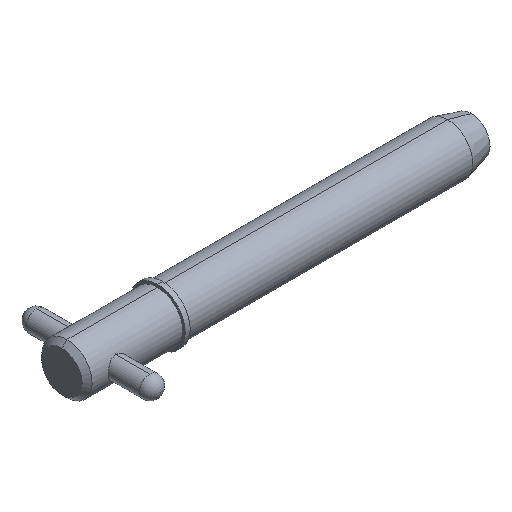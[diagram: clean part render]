
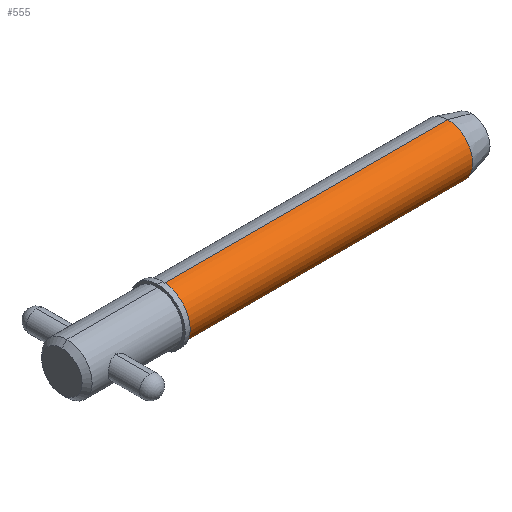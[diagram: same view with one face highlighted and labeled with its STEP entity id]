
A CAD part, isometric view. The second image highlights one B-rep face of the part: STEP entity #555.
In plain terms, the highlighted cylindrical face has radius 4.765 mm (diameter 9.53 mm), a partial arc.
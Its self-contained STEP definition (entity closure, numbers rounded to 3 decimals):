
#2 = CARTESIAN_POINT ( 'NONE',  ( 0., 0., 0. ) ) ;
#70 = CARTESIAN_POINT ( 'NONE',  ( 73.024, 0., 0. ) ) ;
#101 = EDGE_LOOP ( 'NONE', ( #611, #724, #942, #831 ) ) ;
#189 = CARTESIAN_POINT ( 'NONE',  ( 19.05, 0., 0. ) ) ;
#224 = AXIS2_PLACEMENT_3D ( 'NONE', #189, #502, #806 ) ;
#254 = FACE_OUTER_BOUND ( 'NONE', #101, .T. ) ;
#256 = VERTEX_POINT ( 'NONE', #573 ) ;
#320 = CYLINDRICAL_SURFACE ( 'NONE', #969, 4.765 ) ;
#373 = EDGE_CURVE ( 'NONE', #256, #421, #501, .T. ) ;
#376 = EDGE_CURVE ( 'NONE', #421, #695, #452, .T. ) ;
#409 = DIRECTION ( 'NONE',  ( 0., 0., -1. ) ) ;
#421 = VERTEX_POINT ( 'NONE', #609 ) ;
#452 = LINE ( 'NONE', #693, #490 ) ;
#462 = CARTESIAN_POINT ( 'NONE',  ( 73.024, 0., 4.765 ) ) ;
#467 = DIRECTION ( 'NONE',  ( 1., 0., 0. ) ) ;
#471 = CARTESIAN_POINT ( 'NONE',  ( 73.024, 0., -4.765 ) ) ;
#490 = VECTOR ( 'NONE', #615, 1000. ) ;
#501 = CIRCLE ( 'NONE', #224, 4.765 ) ;
#502 = DIRECTION ( 'NONE',  ( 1., 0., 0. ) ) ;
#535 = DIRECTION ( 'NONE',  ( 1., 0., 0. ) ) ;
#555 = ADVANCED_FACE ( 'NONE', ( #254 ), #320, .T. ) ;
#560 = LINE ( 'NONE', #723, #751 ) ;
#573 = CARTESIAN_POINT ( 'NONE',  ( 19.05, 0., 4.765 ) ) ;
#594 = EDGE_CURVE ( 'NONE', #256, #885, #560, .T. ) ;
#609 = CARTESIAN_POINT ( 'NONE',  ( 19.05, 0., -4.765 ) ) ;
#611 = ORIENTED_EDGE ( 'NONE', *, *, #594, .F. ) ;
#615 = DIRECTION ( 'NONE',  ( 1., 0., 0. ) ) ;
#693 = CARTESIAN_POINT ( 'NONE',  ( 0., 0., -4.765 ) ) ;
#695 = VERTEX_POINT ( 'NONE', #471 ) ;
#723 = CARTESIAN_POINT ( 'NONE',  ( 0., 0., 4.765 ) ) ;
#724 = ORIENTED_EDGE ( 'NONE', *, *, #373, .T. ) ;
#751 = VECTOR ( 'NONE', #467, 1000. ) ;
#806 = DIRECTION ( 'NONE',  ( 0., 0., -1. ) ) ;
#817 = DIRECTION ( 'NONE',  ( 1., 0., 0. ) ) ;
#831 = ORIENTED_EDGE ( 'NONE', *, *, #888, .F. ) ;
#851 = AXIS2_PLACEMENT_3D ( 'NONE', #70, #535, #865 ) ;
#865 = DIRECTION ( 'NONE',  ( 0., 0., -1. ) ) ;
#885 = VERTEX_POINT ( 'NONE', #462 ) ;
#888 = EDGE_CURVE ( 'NONE', #885, #695, #1008, .T. ) ;
#942 = ORIENTED_EDGE ( 'NONE', *, *, #376, .T. ) ;
#969 = AXIS2_PLACEMENT_3D ( 'NONE', #2, #817, #409 ) ;
#1008 = CIRCLE ( 'NONE', #851, 4.765 ) ;
